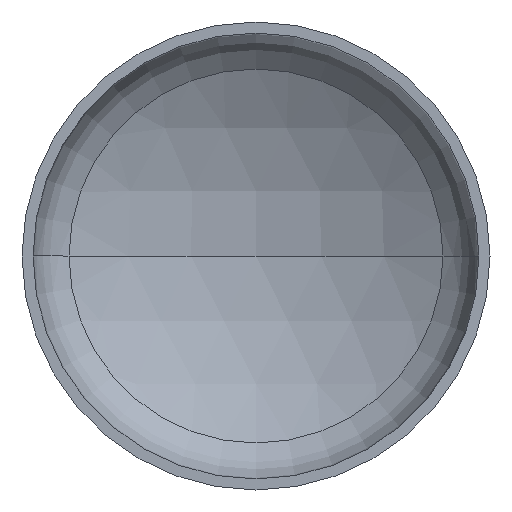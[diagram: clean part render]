
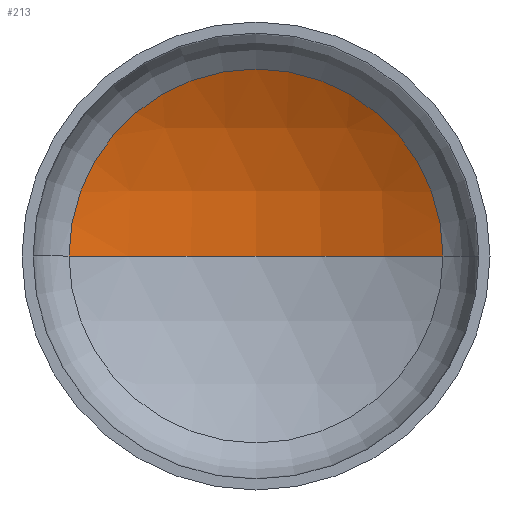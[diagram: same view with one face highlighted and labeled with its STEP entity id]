
A CAD part, front view. The second image highlights one B-rep face of the part: STEP entity #213.
In plain terms, the highlighted spherical face has radius 1120 mm.
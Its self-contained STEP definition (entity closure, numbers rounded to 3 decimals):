
#1 = AXIS2_PLACEMENT_3D ( 'NONE', #204, #377, #156 ) ;
#15 = AXIS2_PLACEMENT_3D ( 'NONE', #283, #182, #292 ) ;
#26 = VERTEX_POINT ( 'NONE', #294 ) ;
#39 = VERTEX_POINT ( 'NONE', #298 ) ;
#42 = AXIS2_PLACEMENT_3D ( 'NONE', #130, #157, #385 ) ;
#63 = VERTEX_POINT ( 'NONE', #262 ) ;
#120 = CARTESIAN_POINT ( 'NONE',  ( 0., -684.041, 0. ) ) ;
#121 = ORIENTED_EDGE ( 'NONE', *, *, #390, .T. ) ;
#130 = CARTESIAN_POINT ( 'NONE',  ( 0., -684.041, 0. ) ) ;
#144 = EDGE_LOOP ( 'NONE', ( #169, #121, #147 ) ) ;
#147 = ORIENTED_EDGE ( 'NONE', *, *, #345, .T. ) ;
#156 = DIRECTION ( 'NONE',  ( 1., 0., 0. ) ) ;
#157 = DIRECTION ( 'NONE',  ( 0., 0., -1. ) ) ;
#169 = ORIENTED_EDGE ( 'NONE', *, *, #389, .F. ) ;
#182 = DIRECTION ( 'NONE',  ( 0., -1., 0. ) ) ;
#183 = AXIS2_PLACEMENT_3D ( 'NONE', #120, #351, #202 ) ;
#202 = DIRECTION ( 'NONE',  ( -1., 0., 0. ) ) ;
#204 = CARTESIAN_POINT ( 'NONE',  ( 0., -684.041, 0. ) ) ;
#213 = ADVANCED_FACE ( 'NONE', ( #337 ), #393, .F. ) ;
#262 = CARTESIAN_POINT ( 'NONE',  ( 0., 435.959, 0. ) ) ;
#281 = CIRCLE ( 'NONE', #1, 1120. ) ;
#283 = CARTESIAN_POINT ( 'NONE',  ( 0., 286.264, 0. ) ) ;
#292 = DIRECTION ( 'NONE',  ( 1., 0., 0. ) ) ;
#294 = CARTESIAN_POINT ( 'NONE',  ( 559.381, 286.264, 0. ) ) ;
#298 = CARTESIAN_POINT ( 'NONE',  ( -559.381, 286.264, 0. ) ) ;
#337 = FACE_OUTER_BOUND ( 'NONE', #144, .T. ) ;
#345 = EDGE_CURVE ( 'NONE', #26, #39, #363, .T. ) ;
#351 = DIRECTION ( 'NONE',  ( 0., 0., -1. ) ) ;
#363 = CIRCLE ( 'NONE', #15, 559.381 ) ;
#377 = DIRECTION ( 'NONE',  ( 0., 0., 1. ) ) ;
#385 = DIRECTION ( 'NONE',  ( -1., 0., 0. ) ) ;
#389 = EDGE_CURVE ( 'NONE', #63, #39, #281, .T. ) ;
#390 = EDGE_CURVE ( 'NONE', #63, #26, #405, .T. ) ;
#393 = SPHERICAL_SURFACE ( 'NONE', #42, 1120. ) ;
#405 = CIRCLE ( 'NONE', #183, 1120. ) ;
